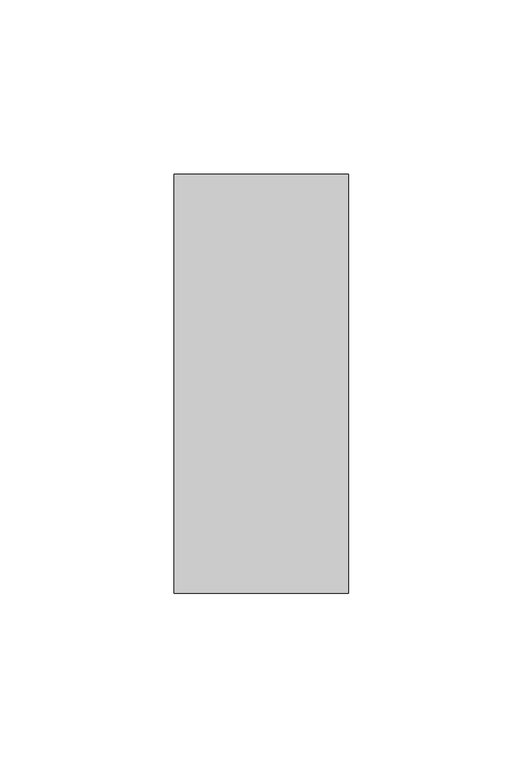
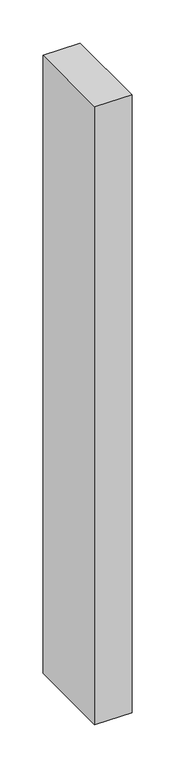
"""IFC4 building model written with IfcOpenShell, lengths in millimetres: member geometry, Прямоугольный импост : 50х120 мм."""

from ifc_helpers import new_model, si_unit, frame, origin, place, context, project, spatial, polyline, outline, extrude, source, transform, mapped, element, save


def member_593096ae(model_context):
    return source(origin(), model_context, "Body", "SweptSolid", [
        extrude(outline(polyline([(0.0, 60.0), (0.0, -60.0), (-50.0, -60.0), (-50.0, 60.0), (0.0, 60.0)])), frame((0.0, 0.0, -875.0), z_axis=(0.0, 0.0, 1.0), x_axis=(1.0, 0.0, 0.0)), (0.0, 0.0, 1.0), 875.0),
    ])


if __name__ == "__main__":
    model = new_model("IFC4")
    model_context = context("Model", 3, world=origin())
    ifc_project = project(units=[si_unit("LENGTHUNIT", "METRE", prefix="MILLI")], contexts=[model_context])
    site = spatial("IfcSite", under=ifc_project)
    building = spatial("IfcBuilding", under=site)
    placement = place(None, origin())
    member_shape = member_593096ae(model_context)
    element("IfcMember", 1, ObjectType="Прямоугольный импост : 50х120 мм", at=placement, inside=building, context=model_context, shape_type="MappedRepresentation", body=[
        mapped(member_shape, transform((0.0, 0.0, 0.0), x_axis=(1.0, 0.0, 0.0), y_axis=(0.0, 1.0, 0.0), z_axis=(0.0, 0.0, 1.0))),
    ])
    save(model, "model.ifc")
